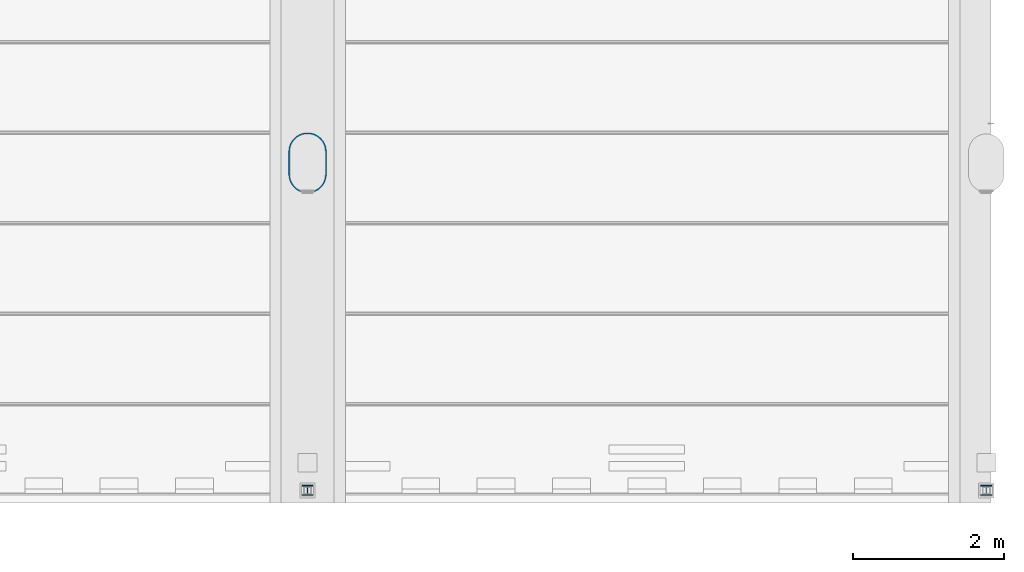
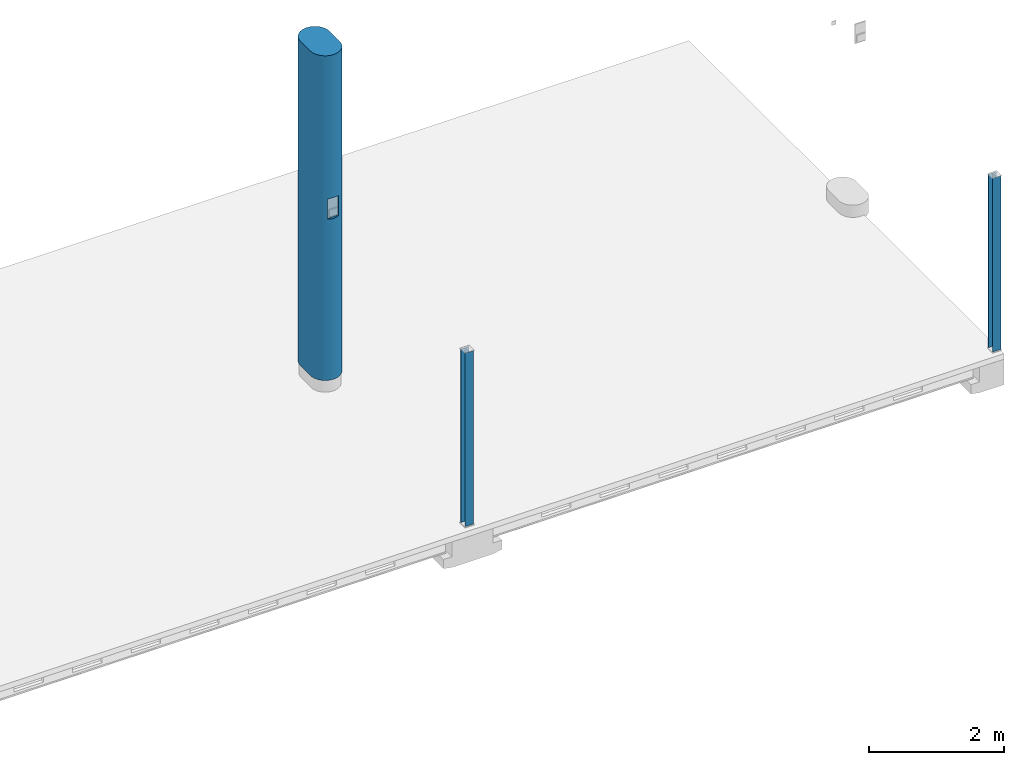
# One storey, part 3 of 15: 3 columns.
"""IFC2X3 building model written with IfcOpenShell, lengths in millimetres."""

import ifcopenshell
import ifcopenshell.guid

model = None  # the IFC model being written
_history = None  # IfcOwnerHistory: only IFC2X3 demands one
_inside = {}  # id of a spatial element -> (the spatial element, [elements in it])
_under = {}  # id of a project, library or spatial element -> (it, [spatial elements below it])
_declared = {}  # id of a project -> (the project, [libraries it declares])
_typed = {}  # id of a type object -> (the type object, [elements of that type])
_made_of = {}  # id of a material, layer set ... -> (it, [elements and type objects made of it])


def new_model(schema):
    """Start an empty IFC model of exactly this schema.

    Asked for "IFC4X3", IfcOpenShell would pick the latest addendum, in which some entities
    have other attributes; the version numbers below select the first issue.
    IFC2X3 requires an IfcOwnerHistory on every rooted entity: one is made here for all.
    """
    global model, _history
    if schema == "IFC4X3":
        model = ifcopenshell.file(schema_version=(4, 3, 0, 0))
    else:
        model = ifcopenshell.file(schema=schema)
    _inside.clear()
    _under.clear()
    _declared.clear()
    _typed.clear()
    _made_of.clear()
    _history = None
    if model.schema == "IFC2X3":
        org = make("IfcOrganization", Name="unknown")
        user = make(
            "IfcPersonAndOrganization",
            ThePerson=make("IfcPerson", FamilyName="unknown"),
            TheOrganization=org,
        )
        app = make(
            "IfcApplication",
            ApplicationDeveloper=org,
            Version="unknown",
            ApplicationFullName="unknown",
            ApplicationIdentifier="unknown",
        )
        _history = make(
            "IfcOwnerHistory",
            OwningUser=user,
            OwningApplication=app,
            ChangeAction="ADDED",
            CreationDate=0,
        )
    return model


def make(cls, **values):
    """One entity of the class cls with the attributes given. An attribute that is None is left unset."""
    return model.create_entity(
        cls, **{name: value for name, value in values.items() if value is not None}
    )


def entity(cls, *values):
    """Any entity or typed value of the class cls, its attributes in the order of the schema. None: left unset."""
    e = model.create_entity(cls)
    for i, value in enumerate(values):
        if value is not None:
            e[i] = value
    return e


def rooted(cls, **values):
    """An entity with a GlobalId (a new one), such as an element, a storey or a relation."""
    return make(cls, GlobalId=ifcopenshell.guid.new(), OwnerHistory=_history, **values)


def si_unit(unit_type, name, prefix=None):
    """IfcSIUnit, for example si_unit("LENGTHUNIT", "METRE", prefix="MILLI")."""
    return make("IfcSIUnit", UnitType=unit_type, Prefix=prefix, Name=name)


def converted_unit(unit_type, name, factor, base, dimensions=None, offset=None):
    """IfcConversionBasedUnit, such as the inch: factor (a typed value) times the base unit."""
    return make(
        "IfcConversionBasedUnit"
        if offset is None
        else "IfcConversionBasedUnitWithOffset",
        ConversionOffset=offset,
        Dimensions=None
        if dimensions is None
        else entity("IfcDimensionalExponents", *dimensions),
        UnitType=unit_type,
        Name=name,
        ConversionFactor=make(
            "IfcMeasureWithUnit", ValueComponent=factor, UnitComponent=base
        ),
    )


def derived_unit(unit_type, elements):
    """IfcDerivedUnit: a product of units, each with its exponent."""
    return make(
        "IfcDerivedUnit",
        Elements=[
            make("IfcDerivedUnitElement", Unit=unit, Exponent=power)
            for unit, power in elements
        ],
        UnitType=unit_type,
    )


def assignment(units):
    """IfcUnitAssignment: the units of a project."""
    return None if units is None else make("IfcUnitAssignment", Units=units)


def point(xyz):
    """IfcCartesianPoint."""
    return None if xyz is None else make("IfcCartesianPoint", Coordinates=xyz)


def direction(xyz):
    """IfcDirection."""
    return None if xyz is None else make("IfcDirection", DirectionRatios=xyz)


def frame(location, z_axis=None, x_axis=None):
    """IfcAxis2Placement3D, a coordinate frame: its origin and axes. An axis left out is left unset."""
    return make(
        "IfcAxis2Placement3D",
        Location=point(location),
        Axis=direction(z_axis),
        RefDirection=direction(x_axis),
    )


def origin_with_axes():
    """The frame at (0, 0, 0) with the z axis (0, 0, 1) and the x axis (1, 0, 0) written out."""
    return frame((0.0, 0.0, 0.0), z_axis=(0.0, 0.0, 1.0), x_axis=(1.0, 0.0, 0.0))


def place(relative_to, where):
    """IfcLocalPlacement: puts the frame where relative to a parent placement (None: the world)."""
    return make(
        "IfcLocalPlacement", PlacementRelTo=relative_to, RelativePlacement=where
    )


def context(
    kind, dimensions, precision=None, world=None, true_north=None, identifier=None
):
    """IfcGeometricRepresentationContext, for example the 3D "Model" context."""
    return make(
        "IfcGeometricRepresentationContext",
        ContextIdentifier=identifier,
        ContextType=kind,
        CoordinateSpaceDimension=dimensions,
        Precision=precision,
        WorldCoordinateSystem=world,
        TrueNorth=true_north,
    )


def subcontext(parent, identifier, kind, view, scale=None):
    """IfcGeometricRepresentationSubContext, for example "Body" below "Model"."""
    return make(
        "IfcGeometricRepresentationSubContext",
        ContextIdentifier=identifier,
        ContextType=kind,
        ParentContext=parent,
        TargetScale=scale,
        TargetView=view,
    )


def project(units=None, contexts=None):
    """IfcProject with its units and contexts."""
    return rooted(
        "IfcProject",
        Name="project",
        RepresentationContexts=contexts,
        UnitsInContext=assignment(units),
    )


def spatial(cls, under=None, at=None, **own):
    """A site, building, storey or space (cls), placed at a placement, below another one or the project."""
    s = rooted(cls, ObjectPlacement=at, **own)
    if under is not None:
        _under.setdefault(under.id(), (under, []))[1].append(s)
    return s


def faces_of(points, faces, orient=None, outer=None):
    """IfcFace entities. A face is a list of loops; a loop is a list of indices into points, from 0.

    orient and outer hold one flag for each loop. By default every Orientation is true, the
    first loop of a face is its IfcFaceOuterBound and the others are IfcFaceBound.
    """
    made = []
    for i, loops in enumerate(faces):
        bounds = []
        for j, loop in enumerate(loops):
            is_outer = j == 0 if outer is None else outer[i][j]
            bounds.append(
                make(
                    "IfcFaceOuterBound" if is_outer else "IfcFaceBound",
                    Bound=make("IfcPolyLoop", Polygon=[points[k] for k in loop]),
                    Orientation=True if orient is None else orient[i][j],
                )
            )
        made.append(make("IfcFace", Bounds=bounds))
    return made


def faceted_brep(points, faces, orient=None, outer=None, voids=None):
    """IfcFacetedBrep: a solid bounded by flat faces; with voids (closed shells), ...WithVoids."""
    shared = [point(p) for p in points]
    hull = make("IfcClosedShell", CfsFaces=faces_of(shared, faces, orient, outer))
    if voids is None:
        return make("IfcFacetedBrep", Outer=hull)
    return make(
        "IfcFacetedBrepWithVoids",
        Outer=hull,
        Voids=[
            make(cls, CfsFaces=faces_of(shared, fs, o, b)) for cls, fs, o, b in voids
        ],
    )


def shape(context_of_items, identifier, shape_type, items):
    """IfcShapeRepresentation: the items that make up one representation, for example the "Body"."""
    return make(
        "IfcShapeRepresentation",
        ContextOfItems=context_of_items,
        RepresentationIdentifier=identifier,
        RepresentationType=shape_type,
        Items=items,
    )


def material(Name=None, Category=None):
    """IfcMaterial."""
    return make("IfcMaterial", Name=Name, Category=Category)


def made_of(thing, what):
    """Note that an element or type object is made of a material, layer set ...; save() writes the relation."""
    if what is not None:
        _made_of.setdefault(what.id(), (what, []))[1].append(thing)
    return thing


def type_object(cls, material=None, **own):
    """A type object (cls), such as IfcWallType, which elements share."""
    return made_of(rooted(cls, **own), material)


def element(
    cls,
    number,
    at=None,
    inside=None,
    cuts=None,
    type_object=None,
    material=None,
    context=None,
    identifier="Body",
    shape_type=None,
    held_by="IfcProductDefinitionShape",
    body=None,
    shapes=None,
    **own,
):
    """One element of the class cls, such as IfcWall. Its Tag is "e" and its number.

    at: its placement. inside: the storey or other place that contains it. cuts: it is an
    opening in that element (IfcRelVoidsElement). A single representation is given by context,
    identifier, shape_type and body (its items); several are given by shapes. held_by: the class
    of the entity that holds the representations. save() writes the other relations.
    """
    e = rooted(cls, Tag="e%d" % number, ObjectPlacement=at, **own)
    if body is not None:
        shapes = [shape(context, identifier, shape_type, body)]
    if shapes is not None:
        e.Representation = make(held_by, Representations=shapes)
    if inside is not None:
        _inside.setdefault(inside.id(), (inside, []))[1].append(e)
    if cuts is not None:
        rooted(
            "IfcRelVoidsElement", RelatingBuildingElement=cuts, RelatedOpeningElement=e
        )
    if type_object is not None:
        _typed.setdefault(type_object.id(), (type_object, []))[1].append(e)
    return made_of(e, material)


def aggregate(whole, parts):
    """IfcRelAggregates: a whole, such as a stair, and the parts it consists of."""
    return rooted("IfcRelAggregates", RelatingObject=whole, RelatedObjects=parts)


def save(model, path):
    """Write the relations noted so far, then the file.

    IfcRelAggregates (storeys below a building ...), IfcRelContainedInSpatialStructure (elements
    in a storey), IfcRelDefinesByType, IfcRelAssociatesMaterial and IfcRelDeclares: one each for
    every whole, place, type object, material and project.
    """
    for whole, parts in _under.values():
        aggregate(whole, parts)
    for where, things in _inside.values():
        rooted(
            "IfcRelContainedInSpatialStructure",
            RelatedElements=things,
            RelatingStructure=where,
        )
    for kind, things in _typed.values():
        rooted("IfcRelDefinesByType", RelatedObjects=things, RelatingType=kind)
    for what, things in _made_of.values():
        rooted("IfcRelAssociatesMaterial", RelatedObjects=things, RelatingMaterial=what)
    for by, libraries in _declared.values():
        rooted("IfcRelDeclares", RelatingContext=by, RelatedDefinitions=libraries)
    model.write(path)


model = new_model("IFC2X3")

# Units and contexts
model_context = context("Model", 3, precision=0.01, world=frame((0.0, 4.29681676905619e-09, 0.0)), true_north=direction((4.01073788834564e-13, 1.0)))
plan_context = context("Plan", 3, precision=0.01, world=frame((0.0, 4.29681676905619e-09, 0.0)), true_north=direction((4.01073788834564e-13, 1.0)))
body_context = subcontext(model_context, "Body", "Model", "MODEL_VIEW")
ifc_project = project(units=[converted_unit("PLANEANGLEUNIT", "DEGREE", entity("IfcPositiveLengthMeasure", 0.0174532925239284), si_unit("PLANEANGLEUNIT", "RADIAN"), dimensions=[0, 0, 0, 0, 0, 0, 0]), si_unit("AREAUNIT", "SQUARE_METRE"), si_unit("LENGTHUNIT", "METRE", prefix="MILLI"), si_unit("MASSUNIT", "GRAM", prefix="KILO"), si_unit("POWERUNIT", "WATT"), si_unit("PRESSUREUNIT", "PASCAL", prefix="KILO"), si_unit("FORCEUNIT", "NEWTON", prefix="KILO"), si_unit("ELECTRICVOLTAGEUNIT", "VOLT"), si_unit("ELECTRICCURRENTUNIT", "AMPERE"), si_unit("THERMODYNAMICTEMPERATUREUNIT", "DEGREE_CELSIUS"), si_unit("TIMEUNIT", "SECOND"), si_unit("VOLUMEUNIT", "CUBIC_METRE"), derived_unit("LINEARVELOCITYUNIT", [(si_unit("LENGTHUNIT", "METRE"), 1), (si_unit("TIMEUNIT", "SECOND"), -1)]), derived_unit("VOLUMETRICFLOWRATEUNIT", [(si_unit("VOLUMEUNIT", "CUBIC_METRE"), 1), (si_unit("TIMEUNIT", "SECOND"), -1)]), derived_unit("THERMALTRANSMITTANCEUNIT", [(si_unit("POWERUNIT", "WATT"), 1), (si_unit("THERMODYNAMICTEMPERATUREUNIT", "KELVIN"), -1), (si_unit("AREAUNIT", "SQUARE_METRE"), -1)]), derived_unit("SOUNDPRESSUREUNIT", [(si_unit("PRESSUREUNIT", "PASCAL"), 1)])], contexts=[model_context, plan_context])

# Site, building, storey
site_placement = place(None, frame((0.0, -4.29681676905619e-09, 0.0), z_axis=(0.0, 0.0, 1.0), x_axis=(1.0, 0.0, 0.0)))
site = spatial("IfcSite", under=ifc_project, at=site_placement, Name="Gardermoen", CompositionType="ELEMENT")
building_placement = place(site_placement, frame((0.0, 4.29681676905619e-09, 0.0), z_axis=(0.0, 0.0, 1.0), x_axis=(1.0, 0.0, 0.0)))
building = spatial("IfcBuilding", under=site, at=building_placement, Name="TG", CompositionType="ELEMENT")
storey_placement = place(building_placement, origin_with_axes())
storey = spatial("IfcBuildingStorey", under=building, at=storey_placement, Name="F", CompositionType="ELEMENT", Elevation=0.0)

# Columns
ifc_material_1 = material(Name="CONCRETE/C45/55")
column_type_1 = type_object("IfcColumnType", Name="AAJOVAL500*800", PredefinedType="NOTDEFINED")
column_placement = place(storey_placement, frame((339999.999766, 462700.004375, 210350.0), z_axis=(0.0, -1.0, 0.0), x_axis=(0.0, 0.0, 1.0)))
element("IfcColumn", 1, at=column_placement, inside=storey, type_object=column_type_1, material=ifc_material_1, Name="PREFABSØYLE", ObjectType="AAJOVAL500*800", context=body_context, shape_type="Brep", body=[
    faceted_brep([(2915.0, 90.0000000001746, 358.999999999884), (2915.0, -89.9999999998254, 358.999999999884), (3265.0, -89.9999999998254, 358.999999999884), (3265.0, 90.0000000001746, 358.999999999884), (2915.0, 89.9629609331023, 378.999999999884), (3265.0, 89.9629609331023, 378.999999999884), (2915.0, -90.0370390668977, 378.999999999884), (3265.0, -89.9999999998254, 378.999999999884), (0.0, 249.09937213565, 171.201481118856), (0.0, 246.403977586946, 192.250205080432), (5856.0, 246.403977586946, 192.250205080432), (5856.0, 249.09937213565, 171.201481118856), (0.0, 241.93323673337, 212.994515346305), (5856.0, 241.93323673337, 212.994515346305), (0.0, 235.719361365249, 233.284948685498), (5856.0, 235.719361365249, 233.284948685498), (0.0, 227.807122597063, 252.975312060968), (5856.0, 227.807122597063, 252.975312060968), (0.0, 218.253528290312, 271.923735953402), (5856.0, 218.253528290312, 271.923735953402), (0.0, 207.127412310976, 289.993696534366), (5856.0, 207.127412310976, 289.993696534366), (0.0, 194.508938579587, 307.054999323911), (5856.0, 194.508938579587, 307.054999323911), (0.0, 180.489023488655, 322.984717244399), (5856.0, 180.489023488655, 322.984717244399), (0.0, 165.168680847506, 337.668076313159), (5856.0, 165.168680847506, 337.668076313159), (0.0, 148.6582940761, 350.999282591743), (5856.0, 148.6582940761, 350.999282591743), (0.0, 131.076820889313, 362.882284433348), (5856.0, 131.076820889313, 362.882284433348), (0.0, 112.550936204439, 373.231464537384), (5856.0, 112.550936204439, 373.231464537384), (0.0, 93.2141194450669, 381.972256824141), (5856.0, 93.2141194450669, 381.972256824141), (0.0, -93.2141194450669, 381.972256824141), (0.0, -112.550936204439, 373.231464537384), (5856.0, -112.550936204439, 373.231464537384), (5856.0, -93.2141194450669, 381.972256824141), (0.0, -131.076820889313, 362.882284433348), (5856.0, -131.076820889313, 362.882284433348), (0.0, -148.658294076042, 350.999282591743), (5856.0, -148.658294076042, 350.999282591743), (0.0, -165.168680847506, 337.668076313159), (5856.0, -165.168680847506, 337.668076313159), (0.0, -180.489023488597, 322.984717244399), (5856.0, -180.489023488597, 322.984717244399), (0.0, -194.508938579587, 307.054999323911), (5856.0, -194.508938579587, 307.054999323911), (0.0, -207.127412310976, 289.993696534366), (5856.0, -207.127412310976, 289.993696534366), (0.0, -218.253528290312, 271.923735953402), (5856.0, -218.253528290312, 271.923735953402), (0.0, -227.807122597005, 252.975312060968), (5856.0, -227.807122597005, 252.975312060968), (0.0, -235.719361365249, 233.284948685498), (5856.0, -235.719361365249, 233.284948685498), (0.0, -241.93323673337, 212.994515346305), (5856.0, -241.93323673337, 212.994515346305), (0.0, -246.403977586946, 192.250205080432), (5856.0, -246.403977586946, 192.250205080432), (0.0, -249.09937213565, 171.201481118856), (5856.0, -249.09937213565, 171.201481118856), (0.0, -250.0, 150.0), (5856.0, -250.0, 150.0), (0.0, -250.0, -150.0), (5856.0, -250.0, -150.0), (0.0, -249.09937213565, -171.201481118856), (5856.0, -249.09937213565, -171.201481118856), (0.0, -246.403977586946, -192.250205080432), (5856.0, -246.403977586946, -192.250205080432), (0.0, -241.93323673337, -212.994515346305), (5856.0, -241.93323673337, -212.994515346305), (0.0, -235.719361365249, -233.284948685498), (5856.0, -235.719361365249, -233.284948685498), (0.0, -227.807122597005, -252.975312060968), (5856.0, -227.807122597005, -252.975312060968), (0.0, -218.253528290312, -271.923735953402), (5856.0, -218.253528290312, -271.923735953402), (0.0, -207.127412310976, -289.993696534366), (5856.0, -207.127412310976, -289.993696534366), (0.0, -194.508938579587, -307.054999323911), (5856.0, -194.508938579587, -307.054999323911), (0.0, -180.489023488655, -322.984717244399), (5856.0, -180.489023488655, -322.984717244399), (0.0, -165.168680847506, -337.668076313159), (5856.0, -165.168680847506, -337.668076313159), (0.0, -148.6582940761, -350.999282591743), (5856.0, -148.6582940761, -350.999282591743), (0.0, -131.076820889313, -362.882284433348), (5856.0, -131.076820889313, -362.882284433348), (0.0, -112.550936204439, -373.231464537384), (5856.0, -112.550936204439, -373.231464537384), (0.0, -93.2141194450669, -381.972256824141), (5856.0, -93.2141194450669, -381.972256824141), (0.0, -73.205692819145, -389.041683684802), (5856.0, -73.205692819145, -389.041683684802), (0.0, -52.6698174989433, -394.388809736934), (5856.0, -52.6698174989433, -394.388809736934), (0.0, -31.7544549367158, -397.975108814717), (5856.0, -31.7544549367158, -397.975108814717), (0.0, -10.6103007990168, -399.77474155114), (5856.0, -10.6103007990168, -399.77474155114), (0.0, 10.6103007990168, -399.77474155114), (5856.0, 10.6103007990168, -399.77474155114), (0.0, 31.7544549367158, -397.975108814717), (5856.0, 31.7544549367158, -397.975108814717), (0.0, 52.6698174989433, -394.388809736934), (5856.0, 52.6698174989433, -394.388809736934), (0.0, 73.205692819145, -389.041683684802), (5856.0, 73.205692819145, -389.041683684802), (0.0, 93.2141194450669, -381.972256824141), (5856.0, 93.2141194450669, -381.972256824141), (0.0, 112.550936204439, -373.231464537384), (5856.0, 112.550936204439, -373.231464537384), (0.0, 131.076820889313, -362.882284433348), (5856.0, 131.076820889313, -362.882284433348), (0.0, 148.658294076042, -350.999282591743), (5856.0, 148.658294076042, -350.999282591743), (0.0, 165.168680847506, -337.668076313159), (5856.0, 165.168680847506, -337.668076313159), (0.0, 180.489023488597, -322.984717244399), (5856.0, 180.489023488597, -322.984717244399), (0.0, 194.508938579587, -307.054999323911), (5856.0, 194.508938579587, -307.054999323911), (0.0, 207.127412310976, -289.993696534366), (5856.0, 207.127412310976, -289.993696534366), (0.0, 218.253528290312, -271.923735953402), (5856.0, 218.253528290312, -271.923735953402), (0.0, 227.807122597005, -252.975312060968), (5856.0, 227.807122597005, -252.975312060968), (0.0, 235.719361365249, -233.284948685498), (5856.0, 235.719361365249, -233.284948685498), (0.0, 241.93323673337, -212.994515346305), (5856.0, 241.93323673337, -212.994515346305), (0.0, 246.403977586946, -192.250205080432), (5856.0, 246.403977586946, -192.250205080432), (0.0, 249.09937213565, -171.201481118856), (5856.0, 249.09937213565, -171.201481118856), (0.0, 250.0, -150.0), (5856.0, 250.0, -150.0), (0.0, 250.0, 150.0), (5856.0, 250.0, 150.0), (5856.0, 73.205692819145, 389.041683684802), (5856.0, 52.6698174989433, 394.388809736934), (5856.0, 31.7544549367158, 397.975108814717), (5856.0, 10.6103007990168, 399.77474155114), (5856.0, -10.6103007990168, 399.77474155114), (5856.0, -31.7544549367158, 397.975108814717), (5856.0, -52.6698174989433, 394.388809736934), (5856.0, -73.205692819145, 389.041683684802), (0.0, -73.205692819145, 389.041683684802), (0.0, -52.6698174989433, 394.388809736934), (0.0, -31.7544549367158, 397.975108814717), (0.0, -10.6103007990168, 399.77474155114), (0.0, 10.6103007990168, 399.77474155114), (0.0, 31.7544549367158, 397.975108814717), (0.0, 52.6698174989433, 394.388809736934), (0.0, 73.205692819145, 389.041683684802), (2907.82736879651, -73.205692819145, 389.041683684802), (2904.00799304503, -52.6698174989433, 394.388809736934), (2901.44635084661, -31.7544549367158, 397.975108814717), (2900.0, -10.6103007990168, 399.77474155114), (2900.0, 10.6103007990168, 399.77474155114), (2901.44635084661, 31.7544549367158, 397.975108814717), (2904.00799304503, 52.6698174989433, 394.388809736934), (2907.82736879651, 73.205692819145, 389.041683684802), (2912.48037758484, 91.6427092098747, 382.527471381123), (3267.51962241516, 91.6427092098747, 382.527471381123), (3272.17263120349, 73.205692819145, 389.041683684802), (3275.99200695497, 52.6698174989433, 394.388809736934), (3278.55364915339, 31.7544549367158, 397.975108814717), (3280.0, 10.6103007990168, 399.77474155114), (3280.0, -10.6103007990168, 400.0), (3278.55364915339, -31.7544549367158, 397.975108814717), (3275.99200695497, -52.6698174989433, 394.388809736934), (3272.17263120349, -73.205692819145, 389.041683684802), (2912.49638045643, -91.7061187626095, 382.505067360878), (3267.50361954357, -91.7061187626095, 382.505067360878)], [[[0, 1, 2, 3]], [[4, 0, 3, 5]], [[6, 1, 0, 4]], [[7, 2, 1, 6]], [[5, 3, 2, 7]], [[8, 9, 10, 11]], [[9, 12, 13, 10]], [[12, 14, 15, 13]], [[14, 16, 17, 15]], [[16, 18, 19, 17]], [[18, 20, 21, 19]], [[20, 22, 23, 21]], [[22, 24, 25, 23]], [[24, 26, 27, 25]], [[26, 28, 29, 27]], [[28, 30, 31, 29]], [[30, 32, 33, 31]], [[32, 34, 35, 33]], [[36, 37, 38, 39]], [[37, 40, 41, 38]], [[40, 42, 43, 41]], [[42, 44, 45, 43]], [[44, 46, 47, 45]], [[46, 48, 49, 47]], [[48, 50, 51, 49]], [[50, 52, 53, 51]], [[52, 54, 55, 53]], [[54, 56, 57, 55]], [[56, 58, 59, 57]], [[58, 60, 61, 59]], [[60, 62, 63, 61]], [[62, 64, 65, 63]], [[64, 66, 67, 65]], [[66, 68, 69, 67]], [[68, 70, 71, 69]], [[70, 72, 73, 71]], [[72, 74, 75, 73]], [[74, 76, 77, 75]], [[76, 78, 79, 77]], [[78, 80, 81, 79]], [[80, 82, 83, 81]], [[82, 84, 85, 83]], [[84, 86, 87, 85]], [[86, 88, 89, 87]], [[88, 90, 91, 89]], [[90, 92, 93, 91]], [[92, 94, 95, 93]], [[94, 96, 97, 95]], [[96, 98, 99, 97]], [[98, 100, 101, 99]], [[100, 102, 103, 101]], [[102, 104, 105, 103]], [[104, 106, 107, 105]], [[106, 108, 109, 107]], [[108, 110, 111, 109]], [[110, 112, 113, 111]], [[112, 114, 115, 113]], [[114, 116, 117, 115]], [[116, 118, 119, 117]], [[118, 120, 121, 119]], [[120, 122, 123, 121]], [[122, 124, 125, 123]], [[124, 126, 127, 125]], [[126, 128, 129, 127]], [[128, 130, 131, 129]], [[130, 132, 133, 131]], [[132, 134, 135, 133]], [[134, 136, 137, 135]], [[136, 138, 139, 137]], [[138, 140, 141, 139]], [[140, 142, 143, 141]], [[10, 13, 15, 17, 19, 21, 23, 25, 27, 29, 31, 33, 35, 144, 145, 146, 147, 148, 149, 150, 151, 39, 38, 41, 43, 45, 47, 49, 51, 53, 55, 57, 59, 61, 63, 65, 67, 69, 71, 73, 75, 77, 79, 81, 83, 85, 87, 89, 91, 93, 95, 97, 99, 101, 103, 105, 107, 109, 111, 113, 115, 117, 119, 121, 123, 125, 127, 129, 131, 133, 135, 137, 139, 141, 143, 11]], [[142, 8, 11, 143]], [[140, 138, 136, 134, 132, 130, 128, 126, 124, 122, 120, 118, 116, 114, 112, 110, 108, 106, 104, 102, 100, 98, 96, 94, 92, 90, 88, 86, 84, 82, 80, 78, 76, 74, 72, 70, 68, 66, 64, 62, 60, 58, 56, 54, 52, 50, 48, 46, 44, 42, 40, 37, 36, 152, 153, 154, 155, 156, 157, 158, 159, 34, 32, 30, 28, 26, 24, 22, 20, 18, 16, 14, 12, 9, 8, 142]], [[153, 152, 160, 161]], [[154, 153, 161, 162]], [[155, 154, 162, 163]], [[156, 155, 163, 164]], [[157, 156, 164, 165]], [[158, 157, 165, 166]], [[159, 158, 166, 167]], [[144, 35, 34, 159, 167, 168, 169, 170]], [[145, 144, 170, 171]], [[146, 145, 171, 172]], [[147, 146, 172, 173]], [[148, 147, 173, 174]], [[149, 148, 174, 175]], [[150, 149, 175, 176]], [[151, 150, 176, 177]], [[178, 160, 152, 36, 39, 151, 177, 179]], [[178, 179, 7, 6]], [[168, 167, 166, 165, 164, 163, 162, 161, 160, 178, 6, 4]], [[169, 168, 4, 5]], [[179, 177, 176, 175, 174, 173, 172, 171, 170, 169, 5, 7]]]),
])
ifc_material_2 = material(Name="STEEL/S355")
column_type_2 = type_object("IfcColumnType", Name="HEA140", PredefinedType="NOTDEFINED")
for number, where, z_axis, x_axis in (
    (2, (349000.0, 458358.0, 210130.0), (0.0, -1.0, 0.0), (0.0, 0.0, 1.0)),
    (3, (340000.0, 458358.0, 210130.0), (0.0, -1.0, 0.0), (0.0, 0.0, 1.0)),
):
    element("IfcColumn", number, at=place(storey_placement, frame(where, z_axis=z_axis, x_axis=x_axis)), inside=storey, type_object=column_type_2, material=ifc_material_2, Name="STÅLSØYLE", ObjectType="HEA140", context=body_context, shape_type="Brep", body=[
        faceted_brep([(15.0, 70.0, -66.5), (15.0, 70.0, -58.0), (3143.0, 70.0, -58.0), (3143.0, 70.0, -66.5), (15.0, 2.75, -58.0), (3143.0, 2.75, -58.0), (15.0, 2.75, 58.0), (3143.0, 2.75, 58.0), (15.0, 70.0, 58.0), (3143.0, 70.0, 58.0), (15.0, 70.0, 66.5), (3143.0, 70.0, 66.5), (15.0, -70.0, 66.5), (3143.0, -70.0, 66.5), (15.0, -70.0, 58.0), (3143.0, -70.0, 58.0), (15.0, -2.75, 58.0), (3143.0, -2.75, 58.0), (15.0, -2.75, -58.0), (3143.0, -2.75, -58.0), (15.0, -70.0, -58.0), (3143.0, -70.0, -58.0), (15.0, -70.0, -66.5), (3143.0, -70.0, -66.5)], [[[0, 1, 2, 3]], [[1, 4, 5, 2]], [[4, 6, 7, 5]], [[6, 8, 9, 7]], [[8, 10, 11, 9]], [[10, 12, 13, 11]], [[12, 14, 15, 13]], [[14, 16, 17, 15]], [[16, 18, 19, 17]], [[18, 20, 21, 19]], [[20, 22, 23, 21]], [[22, 0, 3, 23]], [[5, 7, 9, 11, 13, 15, 17, 19, 21, 23, 3, 2]], [[22, 20, 18, 16, 14, 12, 10, 8, 6, 4, 1, 0]]]),
    ])

save(model, "model.ifc")
